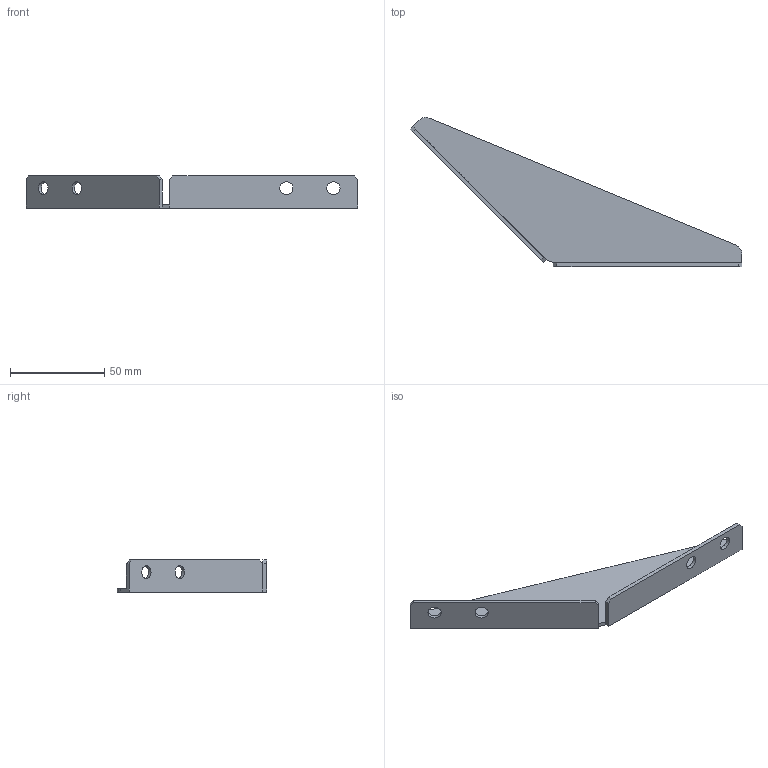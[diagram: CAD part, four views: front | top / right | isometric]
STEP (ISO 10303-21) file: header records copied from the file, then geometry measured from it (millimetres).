
FILE_DESCRIPTION (( 'STEP AP214' ), '1' );
FILE_NAME ('N20852.step', '2024-12-03T16:26:45', ( '' ), ( '' ), 'SwSTEP 2.0', 'SolidWorks 2023', '' );
FILE_SCHEMA (( 'AUTOMOTIVE_DESIGN' ));
Length unit declared in the file: millimetre
Products named in the file (1): N20852
Bounding box: 176.04 x 79.08 x 17 mm (x, y, z)
Volume: 16620.1 mm3; surface area: 17725.8 mm2
Topology: 1 solids, 1 shells, 24 faces, 66 edges, 44 vertices
Faces by surface type: plane 18, cylinder 6
Full cylindrical faces by diameter (mm): 7 x4
Entity records: 763 total; most frequent: CARTESIAN_POINT 127, DIRECTION 122, ORIENTED_EDGE 120, EDGE_CURVE 60, LINE 48, VECTOR 48, VERTEX_POINT 42, AXIS2_PLACEMENT_3D 37
